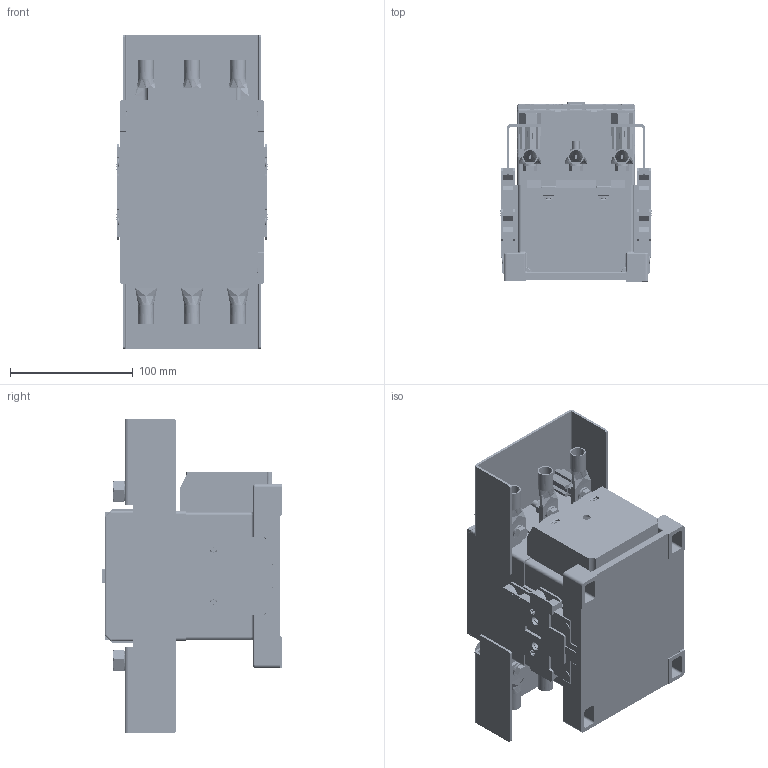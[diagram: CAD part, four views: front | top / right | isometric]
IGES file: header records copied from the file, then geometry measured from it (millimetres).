
Start section: SolidWorks IGES file using analytic representation for surfaces
Global section: file name: Q:\GROUPS\BR_SC_JGS_WA_TECNICO\ENG\Usuarios\Rodrigob\conversão\contatores\Montagem\CWM112_E-CWM150_E+BMP CWM150\CWM112_E-CWM150_E+BMP CWM150.IGS; native system: SolidWorks 2009; preprocessor: SolidWorks 2009; author: rodrigob; date: 111013.133029; units: millimetre
Bounding box: 124.2 x 146 x 256 mm (x, y, z)
Surface area: 335897.3 mm2 (no closed solid volume)
Topology: 0 solids, 0 shells, 4366 faces, 46280 edges, 46246 vertices
Faces by surface type: bspline 2897, revolution 1469
